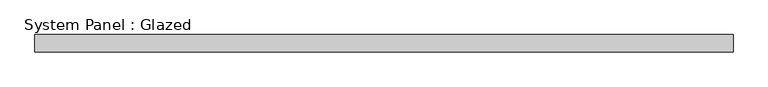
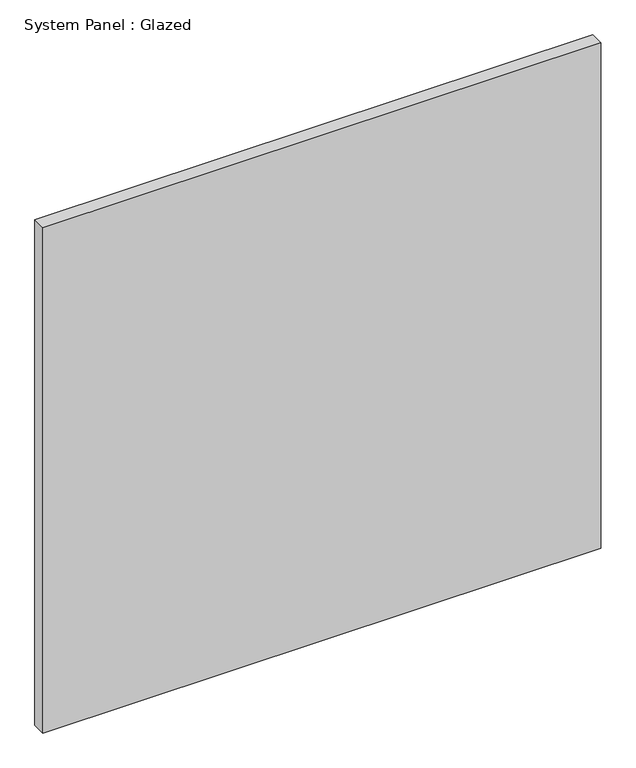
"""IFC4 building model written with IfcOpenShell, lengths in millimetres: plate geometry, System Panel : Glazed."""

from ifc_helpers import new_model, si_unit, origin, origin_with_axes, place, context, project, spatial, polyline, outline, extrude, source, transform, mapped, element, save


def system_panel_glazed_9c783b96(model_context):
    return source(origin(), model_context, "Body", "SweptSolid", [
        extrude(outline(polyline([(511.4925, -44.45), (-511.4925, -44.45), (-511.4925, -19.05), (511.4925, -19.05), (511.4925, -44.45)])), origin_with_axes(), (0.0, 0.0, 1.0), 979.9108166),
    ])


if __name__ == "__main__":
    model = new_model("IFC4")
    model_context = context("Model", 3, world=origin())
    ifc_project = project(units=[si_unit("LENGTHUNIT", "METRE", prefix="MILLI")], contexts=[model_context])
    site = spatial("IfcSite", under=ifc_project)
    building = spatial("IfcBuilding", under=site)
    placement = place(None, origin())
    system_panel_glazed_shape = system_panel_glazed_9c783b96(model_context)
    element("IfcPlate", 1, ObjectType="System Panel : Glazed", at=placement, inside=building, context=model_context, shape_type="MappedRepresentation", body=[
        mapped(system_panel_glazed_shape, transform((0.0, 0.0, 0.0), x_axis=(1.0, 0.0, 0.0), y_axis=(0.0, 1.0, 0.0), z_axis=(0.0, 0.0, 1.0))),
    ])
    save(model, "model.ifc")
